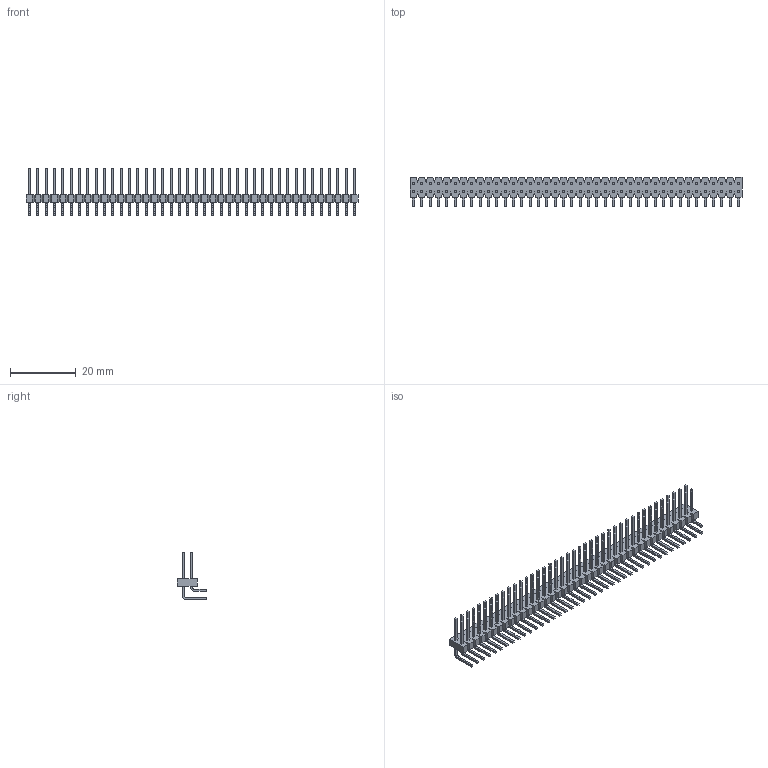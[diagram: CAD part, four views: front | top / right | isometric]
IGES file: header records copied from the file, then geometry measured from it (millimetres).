
Start section:  PTC IGES file: c-9-102975-0-f-3d.igs
Global section: file name: c-9-102975-0-f-3d.igs; native system: Creo Parametric by PTC Inc.; preprocessor: 2015200; author: workeradm; organization: Unknown; units: millimetre
Bounding box: 101.19 x 8.84 x 14.48 mm (x, y, z)
Surface area: 5225.2 mm2 (no closed solid volume)
Topology: 0 solids, 0 shells, 1360 faces, 7188 edges, 7188 vertices
Faces by surface type: bspline 1200, revolution 160
